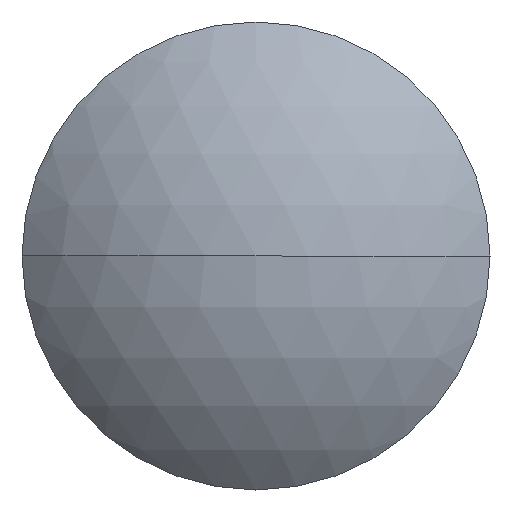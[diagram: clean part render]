
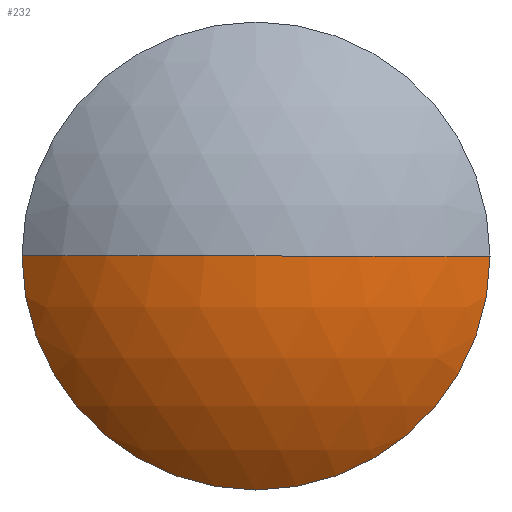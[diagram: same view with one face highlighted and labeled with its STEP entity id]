
A CAD part, left-side view. The second image highlights one B-rep face of the part: STEP entity #232.
In plain terms, the highlighted spherical face has radius 18.125 mm.
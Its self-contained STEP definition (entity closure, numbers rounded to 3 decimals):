
#7 = DIRECTION ( 'NONE',  ( 0., 1., 0. ) ) ;
#22 = DIRECTION ( 'NONE',  ( 1., 0., 0. ) ) ;
#24 = DIRECTION ( 'NONE',  ( -1., 0., 0. ) ) ;
#40 = EDGE_CURVE ( 'NONE', #300, #90, #253, .T. ) ;
#64 = EDGE_CURVE ( 'NONE', #88, #171, #239, .T. ) ;
#75 = CARTESIAN_POINT ( 'NONE',  ( -2., 12.5, 0. ) ) ;
#78 = CARTESIAN_POINT ( 'NONE',  ( 11.125, 0., 0. ) ) ;
#88 = VERTEX_POINT ( 'NONE', #75 ) ;
#90 = VERTEX_POINT ( 'NONE', #151 ) ;
#95 = DIRECTION ( 'NONE',  ( 0., 0., 1. ) ) ;
#106 = EDGE_LOOP ( 'NONE', ( #112, #251, #188, #194 ) ) ;
#111 = CIRCLE ( 'NONE', #183, 18.125 ) ;
#112 = ORIENTED_EDGE ( 'NONE', *, *, #64, .T. ) ;
#125 = DIRECTION ( 'NONE',  ( 0., 0., 1. ) ) ;
#126 = EDGE_CURVE ( 'NONE', #171, #300, #328, .T. ) ;
#140 = DIRECTION ( 'NONE',  ( 0., 0., -1. ) ) ;
#151 = CARTESIAN_POINT ( 'NONE',  ( -7., 0., 0. ) ) ;
#152 = AXIS2_PLACEMENT_3D ( 'NONE', #78, #321, #210 ) ;
#163 = DIRECTION ( 'NONE',  ( -1., 0., 0. ) ) ;
#171 = VERTEX_POINT ( 'NONE', #317 ) ;
#181 = SPHERICAL_SURFACE ( 'NONE', #152, 18.125 ) ;
#183 = AXIS2_PLACEMENT_3D ( 'NONE', #201, #95, #22 ) ;
#187 = CARTESIAN_POINT ( 'NONE',  ( -2., 0., 0. ) ) ;
#188 = ORIENTED_EDGE ( 'NONE', *, *, #40, .T. ) ;
#194 = ORIENTED_EDGE ( 'NONE', *, *, #213, .F. ) ;
#201 = CARTESIAN_POINT ( 'NONE',  ( 11.125, 0., 0. ) ) ;
#208 = AXIS2_PLACEMENT_3D ( 'NONE', #265, #24, #290 ) ;
#210 = DIRECTION ( 'NONE',  ( 0., 1., 0. ) ) ;
#213 = EDGE_CURVE ( 'NONE', #88, #90, #111, .T. ) ;
#214 = AXIS2_PLACEMENT_3D ( 'NONE', #217, #140, #7 ) ;
#217 = CARTESIAN_POINT ( 'NONE',  ( 11.125, 0., 0. ) ) ;
#232 = ADVANCED_FACE ( 'NONE', ( #264 ), #181, .T. ) ;
#239 = CIRCLE ( 'NONE', #336, 12.5 ) ;
#251 = ORIENTED_EDGE ( 'NONE', *, *, #126, .T. ) ;
#253 = CIRCLE ( 'NONE', #214, 18.125 ) ;
#264 = FACE_OUTER_BOUND ( 'NONE', #106, .T. ) ;
#265 = CARTESIAN_POINT ( 'NONE',  ( -2., 0., 0. ) ) ;
#267 = CARTESIAN_POINT ( 'NONE',  ( -2., -12.5, 0. ) ) ;
#290 = DIRECTION ( 'NONE',  ( 0., 0., 1. ) ) ;
#300 = VERTEX_POINT ( 'NONE', #267 ) ;
#317 = CARTESIAN_POINT ( 'NONE',  ( -2., 0., -12.5 ) ) ;
#321 = DIRECTION ( 'NONE',  ( 0., 0., -1. ) ) ;
#328 = CIRCLE ( 'NONE', #208, 12.5 ) ;
#336 = AXIS2_PLACEMENT_3D ( 'NONE', #187, #163, #125 ) ;
